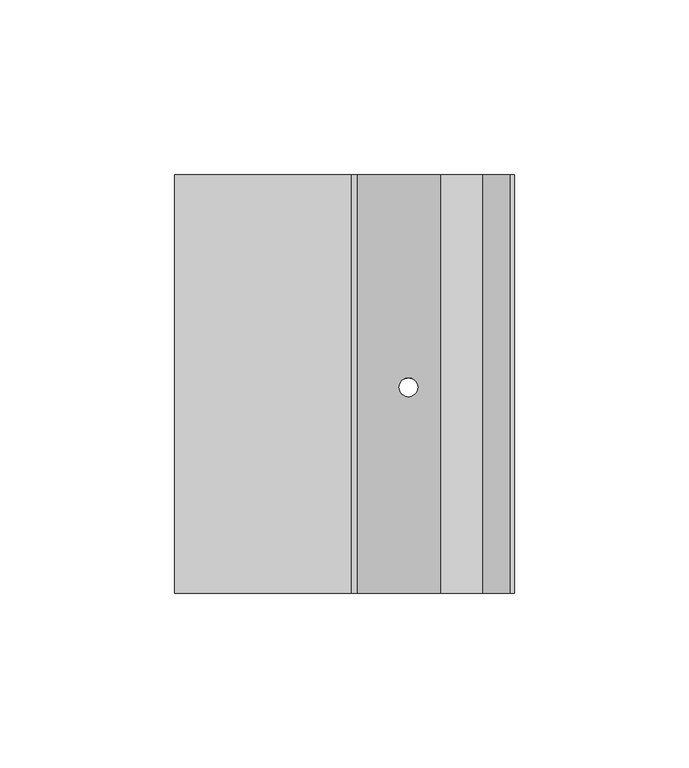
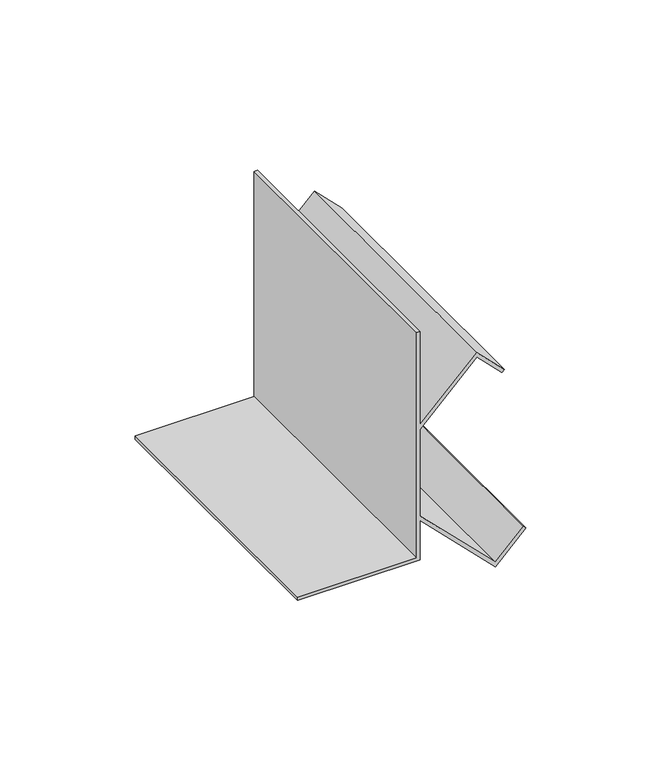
"""IFC4 building model written with IfcOpenShell, lengths in millimetres: proxy geometry, Mechanical Fittings & Accessories3 : Mechanical Fittings & Accessories."""

from ifc_helpers import new_model, si_unit, frame, origin, place, context, project, spatial, polyline, ellipse_curve, source, transform, mapped, element, save
from ifc_brep_helpers import plane_surface, revolved_surface, advanced_brep


def generic_models_7087057a(model_context):
    return source(origin(), model_context, "Body", "AdvancedBrep", [
        advanced_brep(
        [(-10977.7433312, 4565.4963986, 4114.8), (-11028.5433312, 4565.4963986, 4114.8), (-11028.5433312, 4565.4963986, 4113.3117188), (-10976.25505, 4565.4963986, 4113.3117188), (-10976.25505, 4565.4963986, 4131.1383509), (-10944.145289, 4565.4963986, 4099.0285899), (-10931.1663177, 4565.4963986, 4112.0075612), (-10932.2186914, 4565.4963986, 4113.059935), (-10944.145289, 4565.4963986, 4101.1333374), (-10976.25505, 4565.4963986, 4133.2430984), (-10976.25505, 4565.4963986, 4172.2761118), (-10952.082789, 4565.4963986, 4196.4483729), (-10941.3468164, 4565.4963986, 4185.7124003), (-10940.2944427, 4565.4963986, 4186.7647741), (-10952.082789, 4565.4963986, 4198.5531204), (-10976.25505, 4565.4963986, 4174.3808594), (-10976.25505, 4565.4963986, 4216.4), (-10977.7433312, 4565.4963986, 4216.4), (-10977.7433312, 4685.4645457, 4114.8), (-10977.7433312, 4685.4645457, 4216.4), (-10976.25505, 4685.4645457, 4216.4), (-10976.25505, 4685.4645457, 4174.3808594), (-10952.082789, 4685.4645457, 4198.5531204), (-10940.2944427, 4685.4645457, 4186.7647741), (-10941.3468164, 4685.4645457, 4185.7124003), (-10952.082789, 4685.4645457, 4196.4483729), (-10976.25505, 4685.4645457, 4172.2761118), (-10976.25505, 4685.4645457, 4133.2430984), (-10944.145289, 4685.4645457, 4101.1333374), (-10932.2186914, 4685.4645457, 4113.059935), (-10931.1663177, 4685.4645457, 4112.0075612), (-10944.145289, 4685.4645457, 4099.0285899), (-10976.25505, 4685.4645457, 4131.1383509), (-10976.25505, 4685.4645457, 4113.3117188), (-11028.5433312, 4685.4645457, 4113.3117188), (-11028.5433312, 4685.4645457, 4114.8), (-10964.1411396, 4624.5191481, 4119.0244406), (-10958.8017728, 4624.5191481, 4113.6850737), (-10958.8017728, 4624.5191481, 4115.7898213), (-10964.1411396, 4624.5191481, 4121.1291881), (-10964.1411396, 4624.5191481, 4184.3900222), (-10958.8017728, 4624.5191481, 4189.729389), (-10958.8017728, 4624.5191481, 4191.8341365), (-10964.1411396, 4624.5191481, 4186.4947697)],
        [
            (0, 1),
            (1, 2),
            (2, 3),
            (3, 4),
            (4, 5),
            (5, 6),
            (6, 7),
            (7, 8),
            (8, 9),
            (9, 10),
            (10, 11),
            (11, 12),
            (12, 13),
            (13, 14),
            (14, 15),
            (15, 16),
            (16, 17),
            (17, 0),
            (18, 19),
            (19, 20),
            (20, 21),
            (21, 22),
            (22, 23),
            (23, 24),
            (24, 25),
            (25, 26),
            (26, 27),
            (27, 28),
            (28, 29),
            (29, 30),
            (30, 31),
            (31, 32),
            (32, 33),
            (33, 34),
            (34, 35),
            (35, 18),
            (0, 18),
            (35, 1),
            (34, 2),
            (33, 3),
            (32, 4),
            (31, 5),
            (36, 37, ellipse_curve(frame((-10961.4714562, 4624.5191481, 4116.3547571), z_axis=(0.7071067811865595, 0.0, 0.7071067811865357), x_axis=(-0.7071067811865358, 0.0, 0.7071067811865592)), 3.7755025, 2.6696834)),
            (37, 36, ellipse_curve(frame((-10961.4714562, 4624.5191481, 4116.3547571), z_axis=(0.7071067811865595, 0.0, 0.7071067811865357), x_axis=(-0.7071067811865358, 0.0, 0.7071067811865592)), 3.7755025, 2.6696834)),
            (30, 6),
            (29, 7),
            (28, 8),
            (27, 9),
            (38, 39, ellipse_curve(frame((-10961.4714562, 4624.5191481, 4118.4595047), z_axis=(-0.7071067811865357, 0.0, -0.7071067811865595), x_axis=(-0.7071067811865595, 0.0, 0.7071067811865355)), 3.7755025, 2.6696834)),
            (39, 38, ellipse_curve(frame((-10961.4714562, 4624.5191481, 4118.4595047), z_axis=(-0.7071067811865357, 0.0, -0.7071067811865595), x_axis=(-0.7071067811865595, 0.0, 0.7071067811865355)), 3.7755025, 2.6696834)),
            (26, 10),
            (25, 11),
            (40, 41, ellipse_curve(frame((-10961.4714562, 4624.5191481, 4187.0597056), z_axis=(-0.7071067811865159, 0.0, 0.7071067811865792), x_axis=(0.7071067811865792, 0.0, 0.7071067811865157)), 3.7755025, 2.6696834)),
            (41, 40, ellipse_curve(frame((-10961.4714562, 4624.5191481, 4187.0597056), z_axis=(-0.7071067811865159, 0.0, 0.7071067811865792), x_axis=(0.7071067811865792, 0.0, 0.7071067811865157)), 3.7755025, 2.6696834)),
            (24, 12),
            (23, 13),
            (22, 14),
            (21, 15),
            (42, 43, ellipse_curve(frame((-10961.4714562, 4624.5191481, 4189.1644531), z_axis=(0.7071067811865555, 0.0, -0.7071067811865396), x_axis=(0.7071067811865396, 0.0, 0.7071067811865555)), 3.7755025, 2.6696834)),
            (43, 42, ellipse_curve(frame((-10961.4714562, 4624.5191481, 4189.1644531), z_axis=(0.7071067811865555, 0.0, -0.7071067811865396), x_axis=(0.7071067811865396, 0.0, 0.7071067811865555)), 3.7755025, 2.6696834)),
            (20, 16),
            (19, 17),
            (36, 39),
            (38, 37),
            (40, 43),
            (42, 41),
        ],
        [
            plane_surface(frame((-11028.5433312, 4565.4963986, 4114.8), z_axis=(0.0, -1.0, 0.0), x_axis=(-1.0, 0.0, 0.0))),
            plane_surface(frame((-11028.5433312, 4685.4645457, 4114.8), z_axis=(0.0, 1.0, 0.0), x_axis=(1.0, 0.0, 0.0))),
            plane_surface(frame((-10977.7433312, 4565.4963986, 4114.8), z_axis=(0.0, 0.0, 1.0), x_axis=(0.0, 1.0, 0.0))),
            plane_surface(frame((-11028.5433312, 4565.4963986, 4114.8), z_axis=(-1.0, 0.0, 0.0), x_axis=(0.0, 1.0, 0.0))),
            plane_surface(frame((-11028.5433312, 4565.4963986, 4113.3117188), z_axis=(0.0, 0.0, -1.0), x_axis=(0.0, 1.0, 0.0))),
            plane_surface(frame((-10976.25505, 4565.4963986, 4113.3117188), z_axis=(1.0, 0.0, 0.0), x_axis=(0.0, 1.0, 0.0))),
            plane_surface(frame((-10976.25505, 4565.4963986, 4131.1383509), z_axis=(-0.7071067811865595, 0.0, -0.7071067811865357), x_axis=(0.0, 1.0, 0.0))),
            plane_surface(frame((-10944.145289, 4565.4963986, 4099.0285899), z_axis=(0.7071067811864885, 0.0, -0.7071067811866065), x_axis=(0.0, 1.0, 0.0))),
            plane_surface(frame((-10931.1663177, 4565.4963986, 4112.0075612), z_axis=(0.7071067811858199, 0.0, 0.7071067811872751), x_axis=(0.0, 1.0, 0.0))),
            plane_surface(frame((-10932.2186914, 4565.4963986, 4113.059935), z_axis=(-0.7071067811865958, 0.0, 0.7071067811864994), x_axis=(0.0, 1.0, 0.0))),
            plane_surface(frame((-10944.145289, 4565.4963986, 4101.1333374), z_axis=(0.7071067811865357, 0.0, 0.7071067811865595), x_axis=(0.0, 1.0, 0.0))),
            plane_surface(frame((-10976.25505, 4565.4963986, 4133.2430984), z_axis=(1.0, 0.0, 0.0), x_axis=(0.0, 1.0, 0.0))),
            plane_surface(frame((-10976.25505, 4565.4963986, 4172.2761118), z_axis=(0.7071067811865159, 0.0, -0.7071067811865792), x_axis=(0.0, 1.0, 0.0))),
            plane_surface(frame((-10952.082789, 4565.4963986, 4196.4483729), z_axis=(-0.7071067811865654, 0.0, -0.7071067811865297), x_axis=(0.0, 1.0, 0.0))),
            plane_surface(frame((-10941.3468164, 4565.4963986, 4185.7124003), z_axis=(0.7071067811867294, 0.0, -0.7071067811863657), x_axis=(0.0, 1.0, 0.0))),
            plane_surface(frame((-10940.2944427, 4565.4963986, 4186.7647741), z_axis=(0.707106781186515, 0.0, 0.70710678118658), x_axis=(0.0, 1.0, 0.0))),
            plane_surface(frame((-10952.082789, 4565.4963986, 4198.5531204), z_axis=(-0.7071067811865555, 0.0, 0.7071067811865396), x_axis=(0.0, 1.0, 0.0))),
            plane_surface(frame((-10976.25505, 4565.4963986, 4174.3808594), z_axis=(1.0, 0.0, 0.0), x_axis=(0.0, 1.0, 0.0))),
            plane_surface(frame((-10976.25505, 4565.4963986, 4216.4), z_axis=(0.0, 0.0, 1.0), x_axis=(0.0, 1.0, 0.0))),
            plane_surface(frame((-10977.7433312, 4565.4963986, 4216.4), z_axis=(-1.0, 0.0, 0.0), x_axis=(0.0, 1.0, 0.0))),
            revolved_surface(polyline([(-10958.801772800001, 4624.5191481, 4121.129188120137), (-10958.801772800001, 4624.5191481, 4113.685073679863)]), (-10961.4714562, 4624.5191481, 4097.2034211), (0.0, 0.0, 1.0)),
            revolved_surface(polyline([(-10958.801772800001, 4624.5191481, 4191.834136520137), (-10958.801772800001, 4624.5191481, 4184.390022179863)]), (-10961.4714562, 4624.5191481, 4097.2034211), (0.0, 0.0, 1.0)),
        ],
        [
            (0, [[1, 2, 3, 4, 5, 6, 7, 8, 9, 10, 11, 12, 13, 14, 15, 16, 17, 18]]),
            (1, [[19, 20, 21, 22, 23, 24, 25, 26, 27, 28, 29, 30, 31, 32, 33, 34, 35, 36]]),
            (2, [[-1, 37, -36, 38]]),
            (3, [[-2, -38, -35, 39]]),
            (4, [[-3, -39, -34, 40]]),
            (5, [[-4, -40, -33, 41]]),
            (6, [[-5, -41, -32, 42], [43, 44]]),
            (7, [[-6, -42, -31, 45]]),
            (8, [[-7, -45, -30, 46]]),
            (9, [[-8, -46, -29, 47]]),
            (10, [[-9, -47, -28, 48], [49, 50]]),
            (11, [[-10, -48, -27, 51]]),
            (12, [[-11, -51, -26, 52], [53, 54]]),
            (13, [[-12, -52, -25, 55]]),
            (14, [[-13, -55, -24, 56]]),
            (15, [[-14, -56, -23, 57]]),
            (16, [[-15, -57, -22, 58], [59, 60]]),
            (17, [[-16, -58, -21, 61]]),
            (18, [[-17, -61, -20, 62]]),
            (19, [[-18, -62, -19, -37]]),
            (20, [[63, -49, 64, -43]]),
            (21, [[65, -59, 66, -53]]),
            (20, [[-63, -44, -64, -50]]),
            (21, [[-65, -54, -66, -60]]),
        ],
    ),
    ])


if __name__ == "__main__":
    model = new_model("IFC4")
    model_context = context("Model", 3, world=origin())
    ifc_project = project(units=[si_unit("LENGTHUNIT", "METRE", prefix="MILLI")], contexts=[model_context])
    site = spatial("IfcSite", under=ifc_project)
    building = spatial("IfcBuilding", under=site)
    placement = place(None, origin())
    generic_models_shape = generic_models_7087057a(model_context)
    element("IfcBuildingElementProxy", 1, Name="Mechanical Fittings & Accessories3 : Mechanical Fittings & Accessories", ObjectType="Mechanical Fittings & Accessories3 : Mechanical Fittings & Accessories", at=placement, inside=building, context=model_context, shape_type="MappedRepresentation", body=[
        mapped(generic_models_shape, transform((0.0, 0.0, 0.0), x_axis=(1.0, 0.0, 0.0), y_axis=(0.0, 1.0, 0.0), z_axis=(0.0, 0.0, 1.0))),
    ])
    save(model, "model.ifc")
